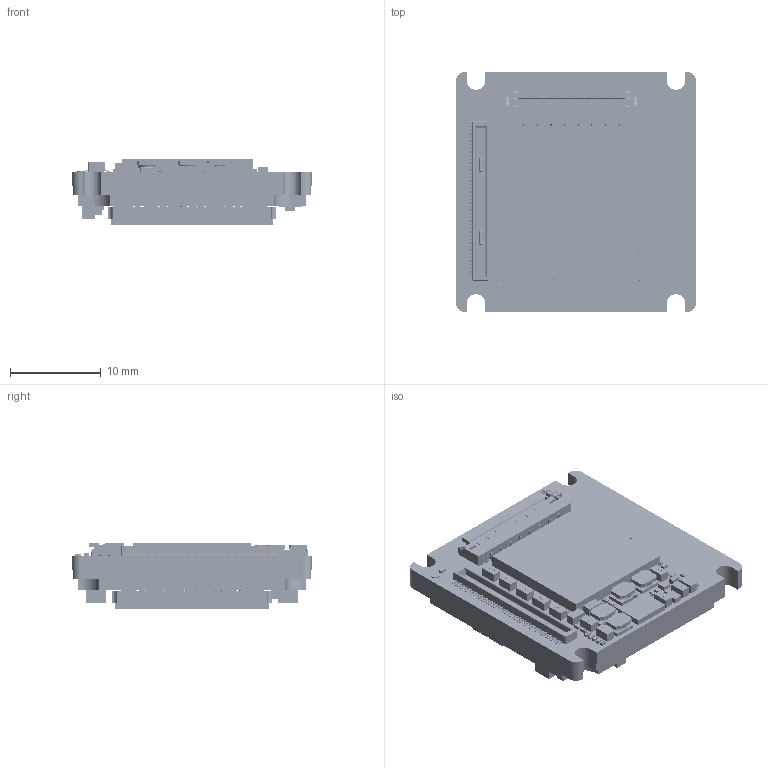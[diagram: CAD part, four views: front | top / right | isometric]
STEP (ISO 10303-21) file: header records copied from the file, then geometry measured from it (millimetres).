
FILE_DESCRIPTION (( 'STEP AP214' ), '1' );
FILE_NAME ('Alvium-CSI2-Bare-Board-IMX18x17.STEP', '2022-10-24T08:30:50', ( '' ), ( '' ), 'SwSTEP 2.0', 'SolidWorks 2021', '' );
FILE_SCHEMA (( 'AUTOMOTIVE_DESIGN' ));
Length unit declared in the file: millimetre
Products named in the file (1): Alvium-CSI2-Bare-Board-IMX18x17
Bounding box: 26.4 x 26.4 x 7.3 mm (x, y, z)
Volume: 3494.1 mm3; surface area: 4714.3 mm2
Topology: 151 solids, 151 shells, 10145 faces, 25864 edges, 17030 vertices
Faces by surface type: plane 5087, bspline 4006, cylinder 1020, torus 28, cone 4
Entity records: 646481 total; most frequent: CARTESIAN_POINT 313870, ORIENTED_EDGE 51728, DIRECTION 32140, EDGE_CURVE 25864, VERTEX_POINT 17030, LINE 15708, VECTOR 15708, EDGE_LOOP 11172
